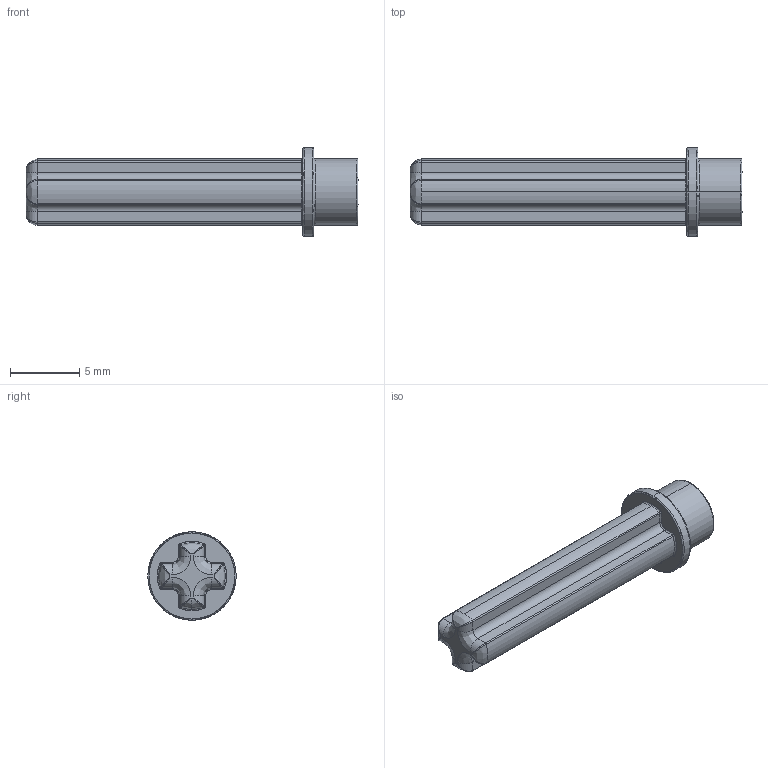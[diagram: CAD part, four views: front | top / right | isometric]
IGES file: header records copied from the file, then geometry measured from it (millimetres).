
Start section: SolidWorks IGES file using analytic representation for surfaces
Global section: file name: C:\Users\PC\Desktop\Lego Technik Gear and Axles\Axles\STEP, IGES, STL\6587 Black Technic Axle 3 with Stud.IGS; native system: SolidWorks 2014; preprocessor: SolidWorks 2014; author: PC; date: 150218.233739; units: millimetre
Bounding box: 24 x 6.4 x 6.4 mm (x, y, z)
Surface area: 489.6 mm2 (no closed solid volume)
Topology: 0 solids, 0 shells, 143 faces, 923 edges, 915 vertices
Faces by surface type: bspline 77, revolution 66
